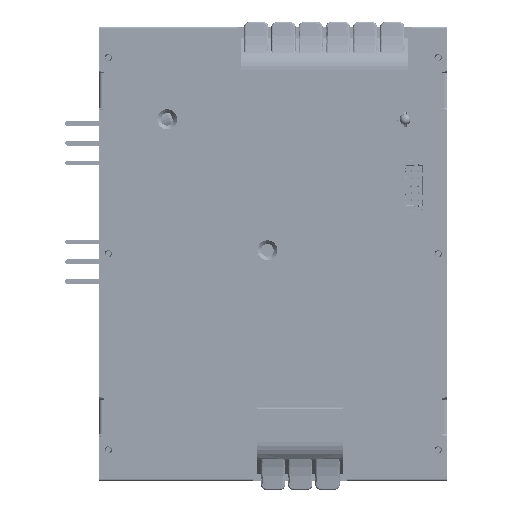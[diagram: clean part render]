
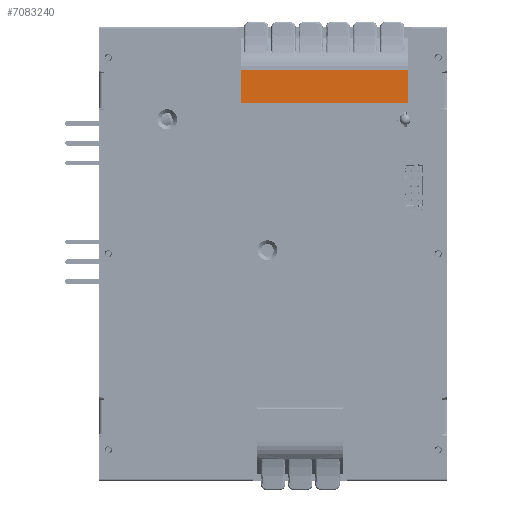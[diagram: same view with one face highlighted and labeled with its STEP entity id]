
A CAD part, left-side view. The second image highlights one B-rep face of the part: STEP entity #7083240.
In plain terms, the highlighted planar face has unit normal (-1, 0, 0) as drawn and (0, 0, 1) by its records, which use the part's own axes.
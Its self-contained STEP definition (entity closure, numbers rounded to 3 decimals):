
#7081070=CARTESIAN_POINT('',(-0.067,-45.24,14.47));
#7081080=VERTEX_POINT('',#7081070);
#7081110=CARTESIAN_POINT('',(-0.067,-45.24,14.47));
#7081120=DIRECTION('',(1.,0.,0.));
#7081130=VECTOR('',#7081120,1.);
#7081140=LINE('',#7081110,#7081130);
#7081150=CARTESIAN_POINT('',(9.,-45.24,14.47));
#7081160=VERTEX_POINT('',#7081150);
#7081170=EDGE_CURVE('',#7081080,#7081160,#7081140,.T.);
#7081800=CARTESIAN_POINT('',(-0.067,0.96,14.47));
#7081810=VERTEX_POINT('',#7081800);
#7082900=CARTESIAN_POINT('',(9.,0.96,14.47));
#7082910=VERTEX_POINT('',#7082900);
#7082940=CARTESIAN_POINT('',(-0.067,0.96,14.47));
#7082950=DIRECTION('',(1.,0.,0.));
#7082960=VECTOR('',#7082950,1.);
#7082970=LINE('',#7082940,#7082960);
#7082980=EDGE_CURVE('',#7081810,#7082910,#7082970,.T.);
#7083030=CARTESIAN_POINT('',(9.,-14.04,14.47));
#7083040=DIRECTION('',(0.,0.,1.));
#7083050=DIRECTION('',(1.,0.,0.));
#7083060=AXIS2_PLACEMENT_3D('',#7083030,#7083040,#7083050);
#7083070=PLANE('',#7083060);
#7083080=ORIENTED_EDGE('',*,*,#7081170,.T.);
#7083090=CARTESIAN_POINT('',(-0.067,-45.24,14.47));
#7083100=DIRECTION('',(0.,1.,0.));
#7083110=VECTOR('',#7083100,1.);
#7083120=LINE('',#7083090,#7083110);
#7083130=EDGE_CURVE('',#7081080,#7081810,#7083120,.T.);
#7083140=ORIENTED_EDGE('',*,*,#7083130,.F.);
#7083150=ORIENTED_EDGE('',*,*,#7082980,.F.);
#7083160=CARTESIAN_POINT('',(9.,0.96,14.47));
#7083170=DIRECTION('',(0.,-1.,0.));
#7083180=VECTOR('',#7083170,1.);
#7083190=LINE('',#7083160,#7083180);
#7083200=EDGE_CURVE('',#7082910,#7081160,#7083190,.T.);
#7083210=ORIENTED_EDGE('',*,*,#7083200,.F.);
#7083220=EDGE_LOOP('',(#7083210,#7083150,#7083140,#7083080));
#7083230=FACE_OUTER_BOUND('',#7083220,.T.);
#7083240=ADVANCED_FACE('',(#7083230),#7083070,.T.);
